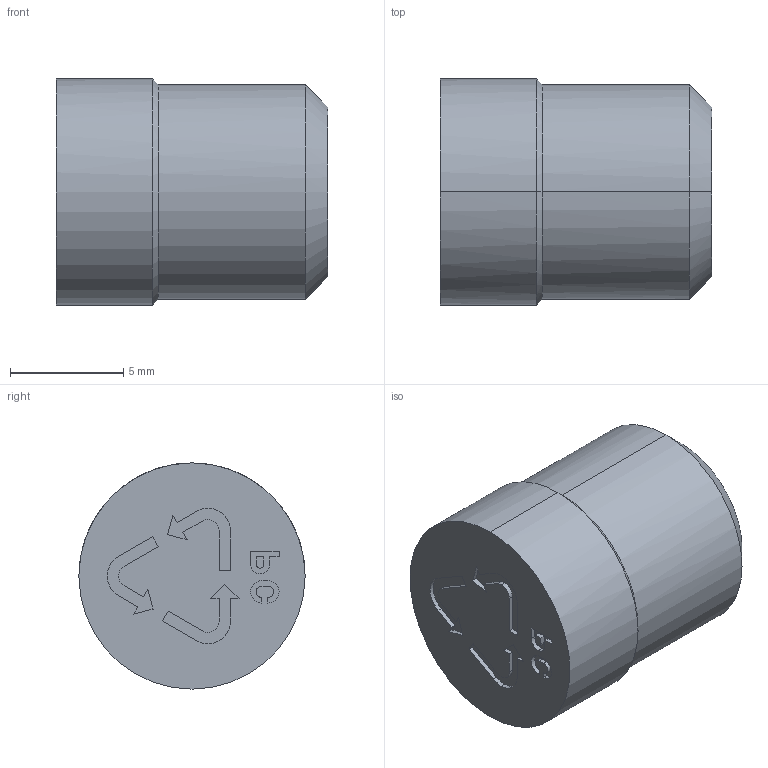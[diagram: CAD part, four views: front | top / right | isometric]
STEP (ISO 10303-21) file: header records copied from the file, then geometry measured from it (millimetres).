
FILE_DESCRIPTION(('CATIA V5 STEP Exchange'),'2;1');
FILE_NAME('C:\Users\Utente\Desktop\IO LAVORO\3D X SITO CF\X SITO\PLASTICA\CFMR\MPC10.stp','2021-03-26T13:46:09+00:00',('none'),('none'),'CATIA Version 5 Release 20 GA (IN-10)','CATIA V5 STEP AP203','none');
FILE_SCHEMA(('CONFIG_CONTROL_DESIGN'));
Length unit declared in the file: millimetre
Products named in the file (1): MPC10
Bounding box: 12 x 10 x 10 mm (x, y, z)
Volume: 811.4 mm3; surface area: 573.5 mm2
Topology: 1 solids, 1 shells, 79 faces, 219 edges, 147 vertices
Faces by surface type: plane 47, cylinder 24, cone 8
Entity records: 2579 total; most frequent: CARTESIAN_POINT 538, ORIENTED_EDGE 434, DIRECTION 363, EDGE_CURVE 217, VECTOR 149, LINE 149, VERTEX_POINT 147, AXIS2_PLACEMENT_3D 136
